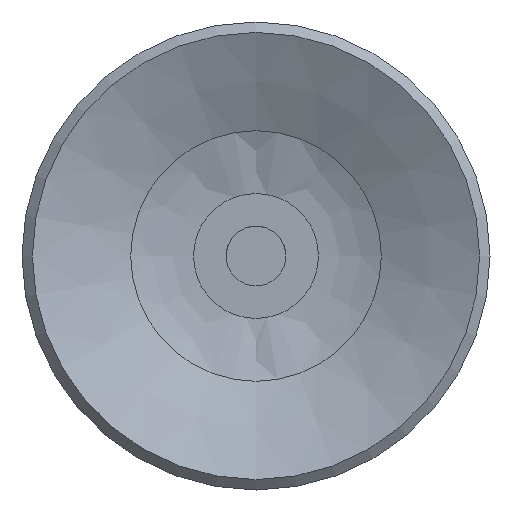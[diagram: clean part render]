
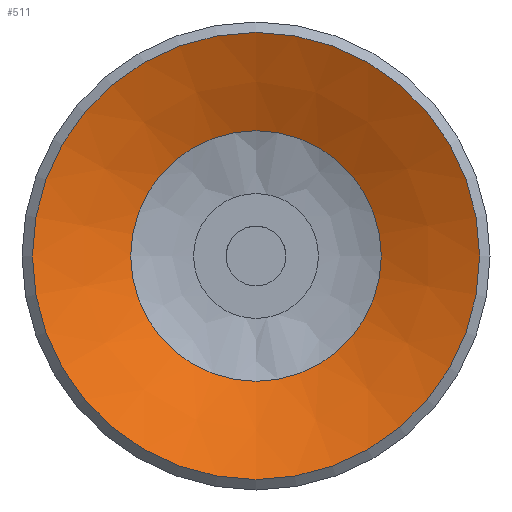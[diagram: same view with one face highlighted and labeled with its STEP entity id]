
A CAD part, front view. The second image highlights one B-rep face of the part: STEP entity #511.
In plain terms, the highlighted conical face has half-angle 65.056 degrees and reference radius 3.2 mm.
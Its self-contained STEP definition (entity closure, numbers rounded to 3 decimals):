
#511=ADVANCED_FACE('',(#795,#796),#797,.F.);
#795=FACE_BOUND('',#1082,.T.);
#796=FACE_OUTER_BOUND('',#1083,.T.);
#797=CONICAL_SURFACE('',#1084,3.2,1.135);
#1082=EDGE_LOOP('',(#1878));
#1083=EDGE_LOOP('',(#1879));
#1084=AXIS2_PLACEMENT_3D('',#1880,#1881,#1882);
#1878=ORIENTED_EDGE('',*,*,#2093,.T.);
#1879=ORIENTED_EDGE('',*,*,#2092,.T.);
#1880=CARTESIAN_POINT('',(0.0,7.896,0.0));
#1881=DIRECTION('',(-0.0,-1.0,0.));
#1882=DIRECTION('',(0.0,0.,-1.0));
#2092=EDGE_CURVE('',#2446,#2446,#2447,.T.);
#2093=EDGE_CURVE('',#2448,#2448,#2449,.T.);
#2446=VERTEX_POINT('',#3226);
#2447=CIRCLE('',#3227,7.5);
#2448=VERTEX_POINT('',#3228);
#2449=CIRCLE('',#3229,4.203);
#3226=CARTESIAN_POINT('',(0.0,5.896,-7.5));
#3227=AXIS2_PLACEMENT_3D('',#3537,#3538,#3539);
#3228=CARTESIAN_POINT('',(0.0,7.43,-4.203));
#3229=AXIS2_PLACEMENT_3D('',#3540,#3541,#3542);
#3537=CARTESIAN_POINT('',(0.0,5.896,0.0));
#3538=DIRECTION('',(0.0,-1.0,0.));
#3539=DIRECTION('',(0.0,0.,-1.0));
#3540=CARTESIAN_POINT('',(0.0,7.43,0.0));
#3541=DIRECTION('',(0.0,1.0,0.));
#3542=DIRECTION('',(0.0,0.,-1.0));
